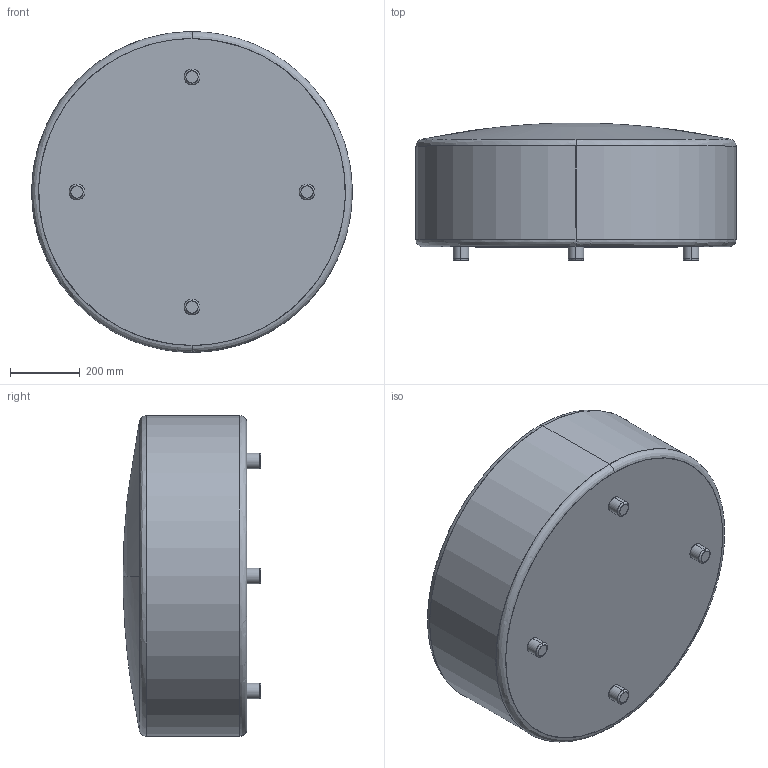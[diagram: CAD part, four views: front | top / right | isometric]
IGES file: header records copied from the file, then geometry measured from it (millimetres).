
Start section: SolidWorks IGES file using analytic representation for surfaces
Global section: file name: \\Logicserver\datos\01-VICCARBE\PRODUCTOS\53-SISTEMA\04-MODELADOS (PLANOS)\WEB\viccarbe-sistema-3D\Modulos\Pouf circular.IGS; native system: SolidWorks 2013; preprocessor: SolidWorks 2013; author: bdisenyo; date: 170120.112007; units: millimetre
Bounding box: 920 x 395 x 920 mm (x, y, z)
Surface area: 2200323.2 mm2 (no closed solid volume)
Topology: 0 solids, 0 shells, 29 faces, 548 edges, 547 vertices
Faces by surface type: bspline 17, revolution 12
